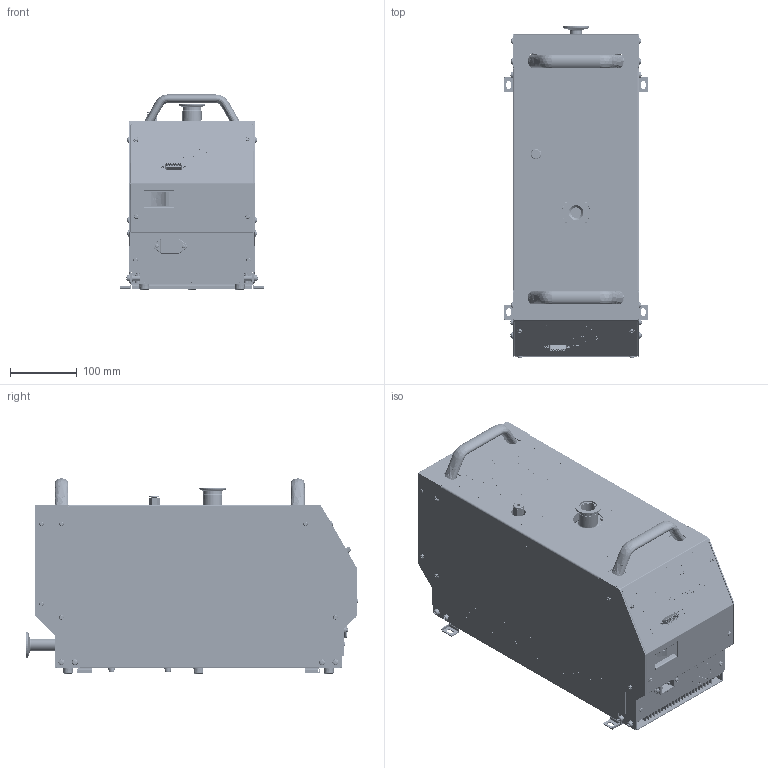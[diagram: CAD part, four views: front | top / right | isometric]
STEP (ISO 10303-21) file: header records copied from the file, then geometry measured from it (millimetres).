
FILE_DESCRIPTION(/* description */ ('Unknown'),/* implementation_level */ '2;1');
FILE_NAME(/* name */ 'S:\2D\DATA\4GDWGデータ\MOVE\酒井\DSP\OV固定金具付\DSP251(3D)-固定金具付.stp',/* time_stamp */ '2021-11-04T18:35:03+09:00',/* author */ ('OVSACAD18'),/* organization */ ('Unknown'),/* preprocessor_version */ 'ST-DEVELOPER v16.5',/* originating_system */ 'Autodesk Inventor 2017',/* authorisation */ '');
FILE_SCHEMA (('AUTOMOTIVE_DESIGN { 1 0 10303 214 3 1 1 }'));
Products named in the file (65): DSP251 W8-A191121401-02(3D)-固定金具削除; W1-C161901701-00; W1-C161901701-00_1; W1-C161901701-00_2; W1-C190605701-00; W1-C161896001-02; W1-C161896001-02_1; W1-C161896001-02_2; W1-C161896001-02_3; W1-C190605501-03; W1-C190605501-03_1; W1-C190605501-03_2; W1-C190605501-03_3; W1-C190605501-03_4; W1-C190605501-03_5; W1-C161901602-01; PDVC-S-CP_C-5150-004-1700; 冷却ファン109L1424; Part36; Part38; W1-C122055501-00; W1-C102294501-01; W1-C091139801-01; W1-C082268501-00; W1-C082268401-00; W1-C090219701-00; C-30-FRB-15; PDVC-S-INLET_C-5550-015-5300; 充電ﾏｰｸ-h2; コント2; ハン1; W1-C184864901-00; W1-C190175502-00; W1-C140004101-00; W1-C140410201-00; W1-C184864801-00; sfbs-m4×8-sus; W1-C100016401-00; W1-9414072; W1-9414071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
Assembly tree (145 placements, depth 3):
  DSP251 W8-A191121401-02(3D)-固定金具削除
    C-30-FRB-15  x5
    W1-C161901701-00
      W1-C161901701-00_1
      W1-C161901701-00_2
    W1-C190605701-00
    W1-C161896001-02
      W1-C161896001-02_1
      W1-C161896001-02_3  x12
      W1-C161896001-02_2
    W1-C190605501-03
      W1-C190605501-03_1
      W1-C190605501-03_2  x2
      W1-C190605501-03_3  x2
      W1-C190605501-03_4
      W1-C190605501-03_5
    sfbs-m4×8-sus  x20
    W1-C161901602-01
    PDVC-S-CP_C-5150-004-1700
    bsh-m04x14  x4
    la_setB-m03x12-ss  x2
    冷却ファン109L1424
      Part36
      Part38
    W1-C184529001-00  x2
    W1-C122055501-00
    W1-C102294501-01
    W1-C091139801-01
    W1-C082268501-00
    W1-C082268401-00
    la-setB-m05x12-sus304  x12
    W1-C090219701-00
    PDVC-S-INLET_C-5550-015-5300
    充電ﾏｰｸ-h2
    コント2
    ハン1  x2
    W1-C184864901-00
    W1-C190175502-00
    W1-C140004101-00
    W1-C140410201-00
    W1-C184864801-00
    la_setB-m04x12-sus304  x4
    W1-C100016401-00
    低頭六角穴付ﾎﾞﾙﾄ  x4
    W1-9414072
    W1-9414071
    W1-C184417401-01
    W1-C122055601-01
    la_setB-m03x6-sus304  x5
    ﾌｨﾝｶﾞｰｶﾞｰﾄﾞ1
09-719H
    zr-m05  x4
    n-m04  x4
    la-m02_5x06  x5
    la_setB-m04x16-sus304  x4
    zm-m05  x4
    W1-C090082901-01  x2
    W1-C191411501-00
      W1-C191411501-00_01
      W1-C191411501-00_02
    la_setB-m04x6-c3602
Bounding box: 215 x 496.7 x 292 mm (x, y, z)
Volume: 4363042.5 mm3; surface area: 2556831.8 mm2
Topology: 153 solids, 153 shells, 9991 faces, 25455 edges, 16939 vertices
Faces by surface type: plane 7538, cylinder 1349, bspline 866, cone 120, torus 78, sphere 40
Full cylindrical faces by diameter (mm): 1.02 x3, 1.5 x15, 1.6 x24, 2.013 x10, 2.2 x7, 2.459 x24, 3 x18, 3.15 x1, 3.2 x3, 3.242 x33, 3.5 x8, 4 x36, 4.1 x12, 4.134 x16, 4.3 x8, 4.5 x12, 4.8 x4, 5 x48, 5.2 x2, 5.3 x4, 5.5 x15, 5.8 x1, 6 x19, 6.2 x5, 6.35 x1, 6.5 x12, 6.928 x1, 7 x36, 7.1 x12, 7.2 x4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
Entity records: 279417 total; most frequent: CARTESIAN_POINT 77367, ORIENTED_EDGE 40688, DIRECTION 35850, EDGE_CURVE 20343, LINE 16790, VECTOR 16790, VERTEX_POINT 13745, EDGE_LOOP 9751
